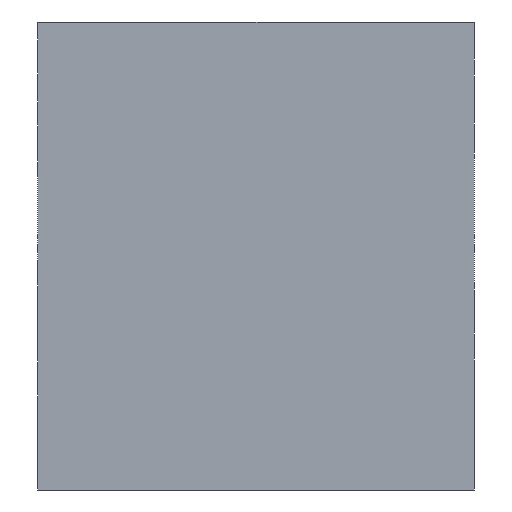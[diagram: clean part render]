
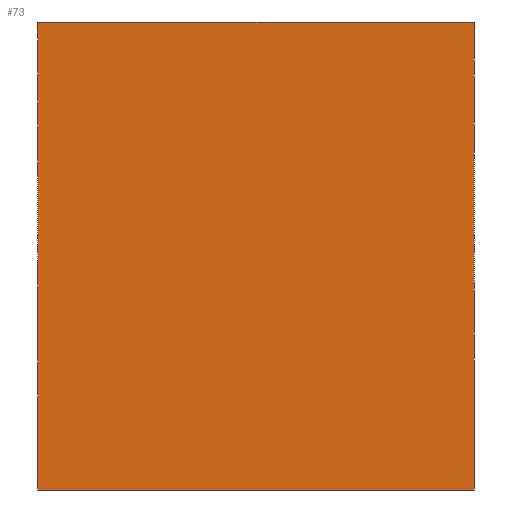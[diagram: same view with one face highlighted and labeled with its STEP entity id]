
A CAD part, left-side view. The second image highlights one B-rep face of the part: STEP entity #73.
In plain terms, the highlighted planar face has unit normal (-1, 0, 0).
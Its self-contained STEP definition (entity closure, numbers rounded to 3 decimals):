
#68=FACE_OUTER_BOUND('',#259,.T.);
#73=ADVANCED_FACE('',(#68),#116,.T.);
#116=PLANE('',#617);
#133=LINE('',#889,#145);
#135=LINE('',#901,#147);
#140=LINE('',#913,#152);
#141=LINE('',#917,#153);
#145=VECTOR('',#702,1.);
#147=VECTOR('',#714,1.);
#152=VECTOR('',#723,1.);
#153=VECTOR('',#728,1.);
#259=EDGE_LOOP('',(#358,#359,#360,#361));
#358=ORIENTED_EDGE('',*,*,#504,.T.);
#359=ORIENTED_EDGE('',*,*,#516,.T.);
#360=ORIENTED_EDGE('',*,*,#510,.F.);
#361=ORIENTED_EDGE('',*,*,#518,.T.);
#450=VERTEX_POINT('',#888);
#451=VERTEX_POINT('',#890);
#456=VERTEX_POINT('',#902);
#457=VERTEX_POINT('',#903);
#504=EDGE_CURVE('',#451,#450,#133,.T.);
#510=EDGE_CURVE('',#456,#457,#135,.T.);
#516=EDGE_CURVE('',#450,#457,#140,.T.);
#518=EDGE_CURVE('',#456,#451,#141,.T.);
#617=AXIS2_PLACEMENT_3D('',#918,#729,#730);
#702=DIRECTION('',(0.,0.,1.));
#714=DIRECTION('',(0.,0.,1.));
#723=DIRECTION('',(0.,1.,0.));
#728=DIRECTION('',(0.,-1.,0.));
#729=DIRECTION('',(-1.,0.,0.));
#730=DIRECTION('',(0.,0.,1.));
#888=CARTESIAN_POINT('',(-30.,-21.,0.));
#889=CARTESIAN_POINT('',(-30.,-21.,-45.));
#890=CARTESIAN_POINT('',(-30.,-21.,-45.));
#901=CARTESIAN_POINT('',(-30.,21.,-45.));
#902=CARTESIAN_POINT('',(-30.,21.,-45.));
#903=CARTESIAN_POINT('',(-30.,21.,0.));
#913=CARTESIAN_POINT('',(-30.,0.,0.));
#917=CARTESIAN_POINT('',(-30.,0.,-45.));
#918=CARTESIAN_POINT('',(-30.,0.,-45.));
